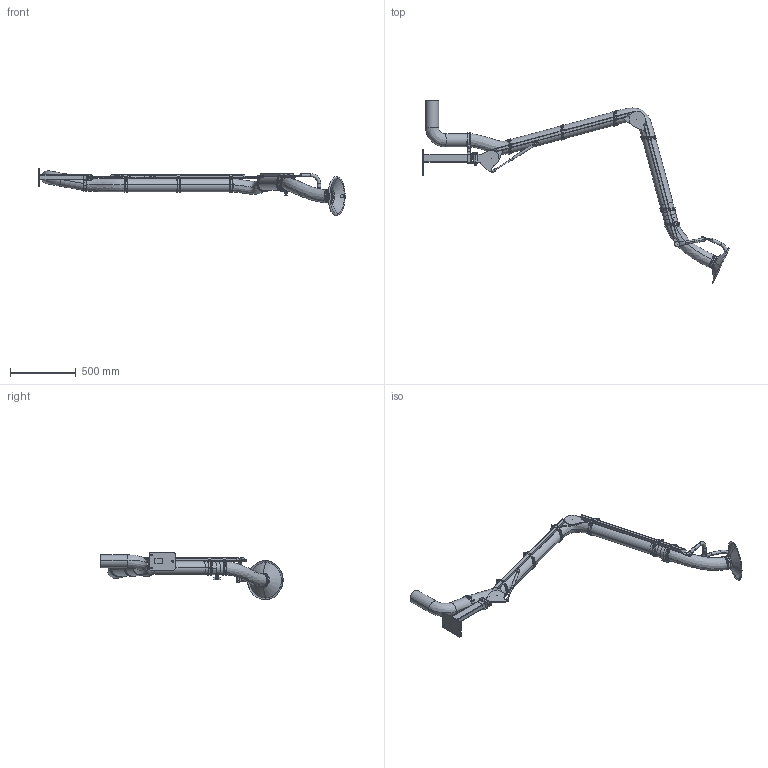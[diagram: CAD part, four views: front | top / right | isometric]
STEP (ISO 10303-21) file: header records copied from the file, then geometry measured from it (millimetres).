
FILE_DESCRIPTION((''),'2;1');
FILE_NAME('PSR_3000-100_D_EXC','2022-10-04T13:18:47',('Tomas Bellgran'),(''),'CREO PARAMETRIC BY PTC INC, 2018260','CREO PARAMETRIC BY PTC INC, 2018260','');
FILE_SCHEMA(('AUTOMOTIVE_DESIGN { 1 0 10303 214 1 1 1 1 }'));
Length unit declared in the file: millimetre
Products named in the file (44): 141558; 141580; 141581; 122701; 141514; 141560; 141582; 141587; 141524; 121391; 131150; 139380; 131151; 131170; 144356; 141589; 134343_AF0; G_P136_WELD-REF; 141590; 122717_LIGHT; 120127_COMPL_LIGHT; 130317; ROD_STAB_8-160-REF; 131095; 130322_AF26; 131145; 139635; 139656; 139614; 139630; 131205; 122291; 122295; 131215; 131219; 131220; 131200; 121064; 121070; 124460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
Assembly tree (61 placements, depth 4):
  PSR_3000-100_D_EXC
    141514
      141558
      141580
      141581
      122701
    141524
      141560
      141582
      141587
    121391  x4
    131150
    131170
      139380
      131151
    144356  x2
    141590
      141589
      134343_AF0
      G_P136_WELD-REF
    122717_LIGHT
    120127_COMPL_LIGHT
    130322_AF26
      130317
      ROD_STAB_8-160-REF
      131095  x2
    131145  x2
    139630
      139635  x3
      139656
      139614
    131200
      131205
      122295
        122291
      131220
        131215
        131219
    121064
    121070
    124460  x6
    107521-11  x6
    121000_LIGHT
    107521-20
Bounding box: 2333.14 x 1388.34 x 362.95 mm (x, y, z)
Volume: 29097488.5 mm3; surface area: 2034593.3 mm2
Topology: 52 solids, 52 shells, 1252 faces, 2985 edges, 1839 vertices
Faces by surface type: plane 458, cylinder 372, bspline 254, torus 72, cone 56, extrusion 25, revolution 13, sphere 2
Entity records: 44638 total; most frequent: CARTESIAN_POINT 15817, DIRECTION 3575, ORIENTED_EDGE 3372, PRESENTATION_STYLE_ASSIGNMENT 2383, STYLED_ITEM 2356, CURVE_STYLE 1714, EDGE_CURVE 1686, AXIS2_PLACEMENT_3D 1397
